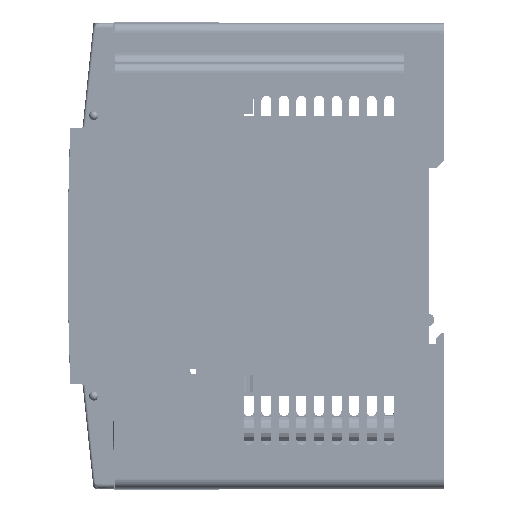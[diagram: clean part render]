
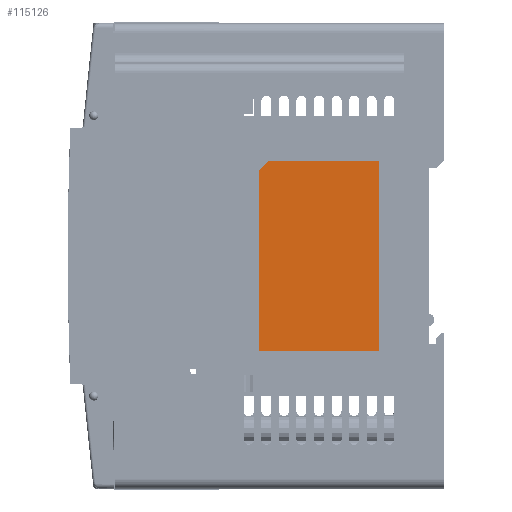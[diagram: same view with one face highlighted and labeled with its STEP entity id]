
A CAD part, left-side view. The second image highlights one B-rep face of the part: STEP entity #115126.
In plain terms, the highlighted planar face has unit normal (-1, 0, 0).
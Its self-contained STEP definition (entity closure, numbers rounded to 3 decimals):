
#987 = LINE ( 'NONE', #114348, #38261 ) ;
#2428 = DIRECTION ( 'NONE',  ( 0., 1., 0. ) ) ;
#2523 = DIRECTION ( 'NONE',  ( 0., 0., -1. ) ) ;
#11017 = LINE ( 'NONE', #58779, #140863 ) ;
#11994 = CARTESIAN_POINT ( 'NONE',  ( -67.4, 36.996, -19. ) ) ;
#12582 = DIRECTION ( 'NONE',  ( 0., 0., -1. ) ) ;
#17838 = CARTESIAN_POINT ( 'NONE',  ( -67.4, 35., 19. ) ) ;
#18264 = EDGE_CURVE ( 'NONE', #109534, #83896, #133388, .T. ) ;
#18683 = ORIENTED_EDGE ( 'NONE', *, *, #18264, .T. ) ;
#22654 = VECTOR ( 'NONE', #69749, 1000. ) ;
#24367 = VERTEX_POINT ( 'NONE', #28689 ) ;
#25755 = AXIS2_PLACEMENT_3D ( 'NONE', #91070, #133973, #12582 ) ;
#28689 = CARTESIAN_POINT ( 'NONE',  ( -67.4, 12.996, 19. ) ) ;
#30257 = CARTESIAN_POINT ( 'NONE',  ( -67.4, 35., 19. ) ) ;
#33660 = FACE_OUTER_BOUND ( 'NONE', #35303, .T. ) ;
#35303 = EDGE_LOOP ( 'NONE', ( #119866, #100810, #95551, #141897, #18683 ) ) ;
#35532 = EDGE_CURVE ( 'NONE', #83896, #100725, #11017, .T. ) ;
#36054 = VERTEX_POINT ( 'NONE', #17838 ) ;
#38261 = VECTOR ( 'NONE', #2428, 1000. ) ;
#38582 = VECTOR ( 'NONE', #136936, 1000. ) ;
#47926 = CARTESIAN_POINT ( 'NONE',  ( -67.4, 12.996, -19. ) ) ;
#53125 = VECTOR ( 'NONE', #2523, 1000. ) ;
#57227 = CARTESIAN_POINT ( 'NONE',  ( -67.4, 36.996, -19. ) ) ;
#58779 = CARTESIAN_POINT ( 'NONE',  ( -67.4, 12.996, -19. ) ) ;
#65119 = EDGE_CURVE ( 'NONE', #24367, #36054, #987, .T. ) ;
#67832 = PLANE ( 'NONE',  #25755 ) ;
#69749 = DIRECTION ( 'NONE',  ( 0., 0., 1. ) ) ;
#70169 = EDGE_CURVE ( 'NONE', #100725, #24367, #127859, .T. ) ;
#77184 = DIRECTION ( 'NONE',  ( 0., -1., 0. ) ) ;
#80942 = EDGE_CURVE ( 'NONE', #36054, #109534, #85530, .T. ) ;
#83896 = VERTEX_POINT ( 'NONE', #57227 ) ;
#85530 = LINE ( 'NONE', #30257, #38582 ) ;
#88650 = CARTESIAN_POINT ( 'NONE',  ( -67.4, 36.996, 17. ) ) ;
#91070 = CARTESIAN_POINT ( 'NONE',  ( -67.4, 0., 0. ) ) ;
#95551 = ORIENTED_EDGE ( 'NONE', *, *, #65119, .T. ) ;
#100725 = VERTEX_POINT ( 'NONE', #140001 ) ;
#100810 = ORIENTED_EDGE ( 'NONE', *, *, #70169, .T. ) ;
#109534 = VERTEX_POINT ( 'NONE', #88650 ) ;
#114348 = CARTESIAN_POINT ( 'NONE',  ( -67.4, 12.996, 19. ) ) ;
#115126 = ADVANCED_FACE ( 'NONE', ( #33660 ), #67832, .F. ) ;
#119866 = ORIENTED_EDGE ( 'NONE', *, *, #35532, .T. ) ;
#127859 = LINE ( 'NONE', #47926, #22654 ) ;
#133388 = LINE ( 'NONE', #11994, #53125 ) ;
#133973 = DIRECTION ( 'NONE',  ( 1., 0., 0. ) ) ;
#136936 = DIRECTION ( 'NONE',  ( 0., 0.706, -0.708 ) ) ;
#140001 = CARTESIAN_POINT ( 'NONE',  ( -67.4, 12.996, -19. ) ) ;
#140863 = VECTOR ( 'NONE', #77184, 1000. ) ;
#141897 = ORIENTED_EDGE ( 'NONE', *, *, #80942, .T. ) ;
